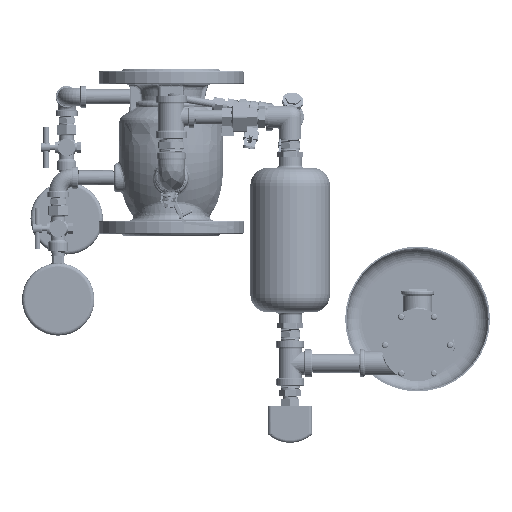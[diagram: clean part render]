
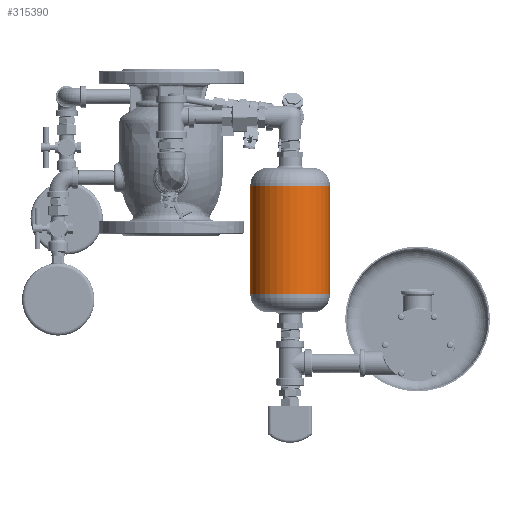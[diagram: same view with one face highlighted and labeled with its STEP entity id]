
A CAD part, front view. The second image highlights one B-rep face of the part: STEP entity #315390.
In plain terms, the highlighted cylindrical face has radius 55 mm (diameter 110 mm), a partial arc.
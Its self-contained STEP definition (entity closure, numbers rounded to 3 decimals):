
#308483=CARTESIAN_POINT('',(0.,0.,75.));
#308484=DIRECTION('',(0.,0.,1.));
#308485=DIRECTION('',(-1.,0.,0.));
#308486=AXIS2_PLACEMENT_3D('',#308483,#308484,#308485);
#308488=DIRECTION('',(0.,0.,-1.));
#308489=VECTOR('',#308488,150.);
#308490=CARTESIAN_POINT('',(55.,0.,75.));
#308491=LINE('',#308490,#308489);
#308492=CARTESIAN_POINT('',(0.,0.,-75.));
#308493=DIRECTION('',(0.,0.,-1.));
#308494=DIRECTION('',(1.,0.,0.));
#308495=AXIS2_PLACEMENT_3D('',#308492,#308493,#308494);
#308497=DIRECTION('',(0.,0.,1.));
#308498=VECTOR('',#308497,150.);
#308499=CARTESIAN_POINT('',(-55.,0.,-75.));
#308500=LINE('',#308499,#308498);
#313444=CARTESIAN_POINT('',(55.,0.,-75.));
#313445=CARTESIAN_POINT('',(-55.,0.,-75.));
#313446=VERTEX_POINT('',#313444);
#313447=VERTEX_POINT('',#313445);
#313516=CARTESIAN_POINT('',(-55.,0.,75.));
#313517=CARTESIAN_POINT('',(55.,0.,75.));
#313518=VERTEX_POINT('',#313516);
#313519=VERTEX_POINT('',#313517);
#315378=CARTESIAN_POINT('',(0.,0.,-128.1));
#315379=DIRECTION('',(0.,0.,1.));
#315380=DIRECTION('',(-1.,0.,0.));
#315381=AXIS2_PLACEMENT_3D('',#315378,#315379,#315380);
#315382=CYLINDRICAL_SURFACE('',#315381,55.);
#315383=ORIENTED_EDGE('',*,*,#315333,.T.);
#315384=ORIENTED_EDGE('',*,*,#315363,.T.);
#315386=ORIENTED_EDGE('',*,*,#315385,.T.);
#315387=ORIENTED_EDGE('',*,*,#315359,.T.);
#315388=EDGE_LOOP('',(#315383,#315384,#315386,#315387));
#315389=FACE_OUTER_BOUND('',#315388,.F.);
#315390=ADVANCED_FACE('',(#315389),#315382,.T.);
#308487=CIRCLE('',#308486,55.);
#308496=CIRCLE('',#308495,55.);
#315333=EDGE_CURVE('',#313518,#313519,#308487,.T.);
#315359=EDGE_CURVE('',#313447,#313518,#308500,.T.);
#315363=EDGE_CURVE('',#313519,#313446,#308491,.T.);
#315385=EDGE_CURVE('',#313446,#313447,#308496,.T.);
